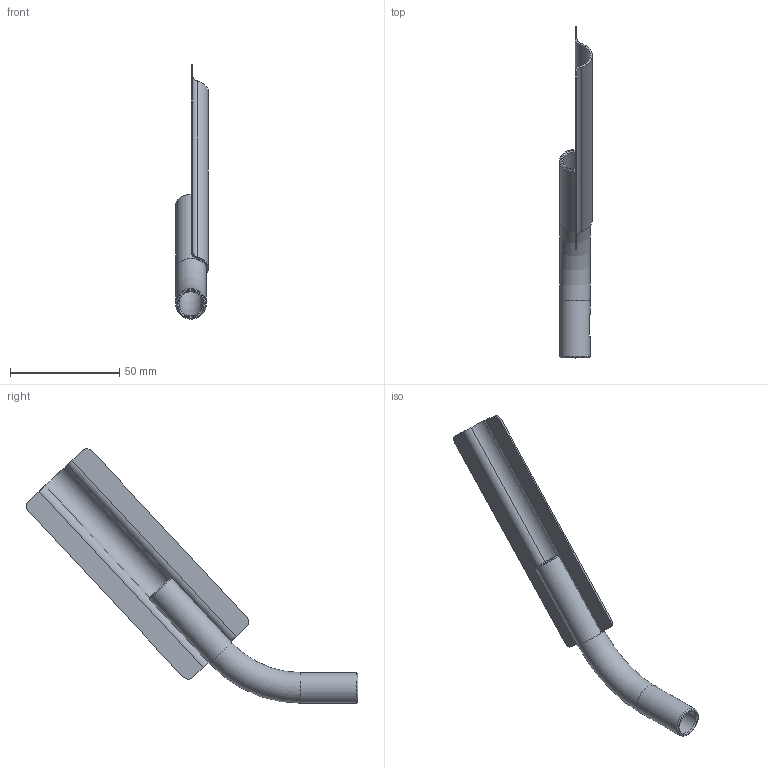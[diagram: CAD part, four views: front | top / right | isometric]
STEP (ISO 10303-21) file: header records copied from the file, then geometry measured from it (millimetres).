
FILE_DESCRIPTION(/* description */ (''),/* implementation_level */ '2;1');
FILE_NAME(/* name */ 'AC16-INOX.stp',/* time_stamp */ '2024-03-22T11:14:51+01:00',/* author */ ('filippo.guidetti'),/* organization */ (''),/* preprocessor_version */ 'ST-DEVELOPER v20',/* originating_system */ 'Autodesk Inventor 2024',/* authorisation */ '');
FILE_SCHEMA (('AUTOMOTIVE_DESIGN { 1 0 10303 214 3 1 1 }'));
Length unit declared in the file: millimetre
Products named in the file (1): AC16-INOX
Bounding box: 14.9 x 151.51 x 116.2 mm (x, y, z)
Volume: 10816.8 mm3; surface area: 17539.4 mm2
Topology: 1 solids, 1 shells, 35 faces, 94 edges, 61 vertices
Faces by surface type: cylinder 15, plane 14, cone 4, torus 2
Full cylindrical faces by diameter (mm): 5.5 x1, 11 x2, 14 x2
Entity records: 1254 total; most frequent: CARTESIAN_POINT 238, DIRECTION 207, ORIENTED_EDGE 188, EDGE_CURVE 94, AXIS2_PLACEMENT_3D 81, VERTEX_POINT 61, LINE 45, VECTOR 45
